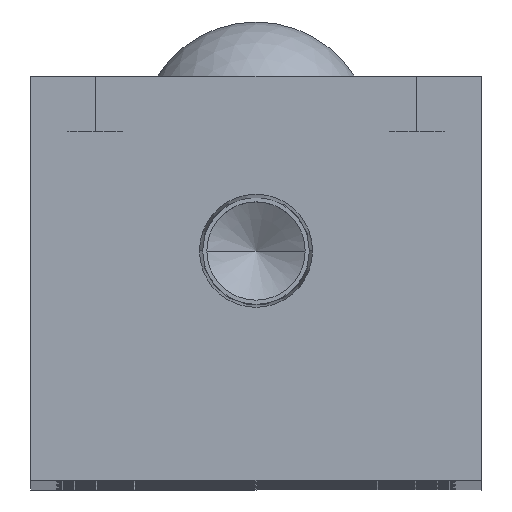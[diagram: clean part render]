
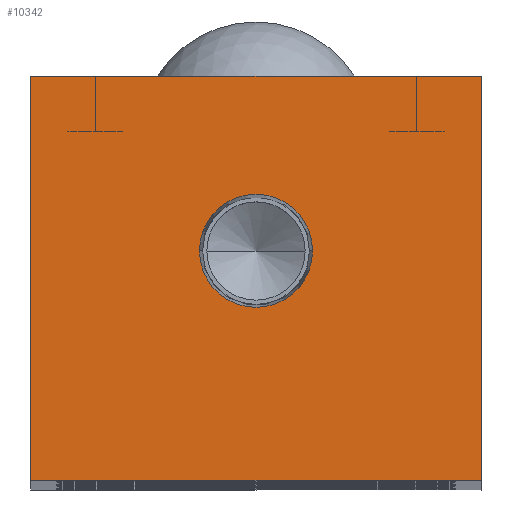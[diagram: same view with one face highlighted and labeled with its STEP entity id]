
A CAD part, top view. The second image highlights one B-rep face of the part: STEP entity #10342.
In plain terms, the highlighted planar face has unit normal (0, 0, 1).
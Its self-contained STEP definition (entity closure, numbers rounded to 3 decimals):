
#293 = DIRECTION ( 'NONE',  ( 1., 0., 0. ) ) ;
#368 = CARTESIAN_POINT ( 'NONE',  ( 24.5, 0., 0. ) ) ;
#609 = DIRECTION ( 'NONE',  ( -1., 0., 0. ) ) ;
#685 = ORIENTED_EDGE ( 'NONE', *, *, #13887, .F. ) ;
#822 = CIRCLE ( 'NONE', #7862, 6.154 ) ;
#835 = EDGE_CURVE ( 'NONE', #13288, #1421, #7518, .T. ) ;
#929 = CARTESIAN_POINT ( 'NONE',  ( 24.5, 0., 0. ) ) ;
#1297 = ORIENTED_EDGE ( 'NONE', *, *, #2838, .T. ) ;
#1421 = VERTEX_POINT ( 'NONE', #6591 ) ;
#1744 = ORIENTED_EDGE ( 'NONE', *, *, #14987, .T. ) ;
#2093 = VECTOR ( 'NONE', #9946, 1000. ) ;
#2445 = FACE_BOUND ( 'NONE', #14408, .T. ) ;
#2823 = EDGE_CURVE ( 'NONE', #5612, #13288, #13438, .T. ) ;
#2838 = EDGE_CURVE ( 'NONE', #1421, #11591, #6734, .T. ) ;
#3529 = VECTOR ( 'NONE', #9387, 1000. ) ;
#3814 = CARTESIAN_POINT ( 'NONE',  ( -6.154, 25., 0. ) ) ;
#3977 = CARTESIAN_POINT ( 'NONE',  ( -24.5, 0., 0. ) ) ;
#4251 = CARTESIAN_POINT ( 'NONE',  ( 0., 25., 0. ) ) ;
#4317 = VECTOR ( 'NONE', #9297, 1000. ) ;
#5401 = CARTESIAN_POINT ( 'NONE',  ( 0., 0., 0. ) ) ;
#5464 = DIRECTION ( 'NONE',  ( 1., 0., 0. ) ) ;
#5612 = VERTEX_POINT ( 'NONE', #14167 ) ;
#5672 = CARTESIAN_POINT ( 'NONE',  ( 24.5, 44., 0. ) ) ;
#6398 = FACE_OUTER_BOUND ( 'NONE', #9476, .T. ) ;
#6591 = CARTESIAN_POINT ( 'NONE',  ( 24.5, 44., 0. ) ) ;
#6610 = PLANE ( 'NONE',  #7303 ) ;
#6734 = LINE ( 'NONE', #6987, #3529 ) ;
#6987 = CARTESIAN_POINT ( 'NONE',  ( -24.5, 44., 0. ) ) ;
#7303 = AXIS2_PLACEMENT_3D ( 'NONE', #5401, #7832, #609 ) ;
#7513 = DIRECTION ( 'NONE',  ( 0., 0., 1. ) ) ;
#7518 = LINE ( 'NONE', #5672, #4317 ) ;
#7832 = DIRECTION ( 'NONE',  ( 0., 0., -1. ) ) ;
#7862 = AXIS2_PLACEMENT_3D ( 'NONE', #4251, #12626, #5464 ) ;
#8475 = AXIS2_PLACEMENT_3D ( 'NONE', #14646, #7513, #293 ) ;
#9265 = ORIENTED_EDGE ( 'NONE', *, *, #835, .T. ) ;
#9297 = DIRECTION ( 'NONE',  ( 0., 1., 0. ) ) ;
#9387 = DIRECTION ( 'NONE',  ( -1., 0., 0. ) ) ;
#9476 = EDGE_LOOP ( 'NONE', ( #1744, #15005, #9265, #1297 ) ) ;
#9946 = DIRECTION ( 'NONE',  ( 0., -1., 0. ) ) ;
#10185 = VERTEX_POINT ( 'NONE', #14716 ) ;
#10342 = ADVANCED_FACE ( 'NONE', ( #2445, #6398 ), #6610, .F. ) ;
#11563 = ORIENTED_EDGE ( 'NONE', *, *, #14913, .F. ) ;
#11591 = VERTEX_POINT ( 'NONE', #11906 ) ;
#11657 = LINE ( 'NONE', #3977, #2093 ) ;
#11906 = CARTESIAN_POINT ( 'NONE',  ( -24.5, 44., 0. ) ) ;
#12626 = DIRECTION ( 'NONE',  ( 0., 0., 1. ) ) ;
#13075 = VECTOR ( 'NONE', #15296, 1000. ) ;
#13288 = VERTEX_POINT ( 'NONE', #368 ) ;
#13438 = LINE ( 'NONE', #929, #13075 ) ;
#13887 = EDGE_CURVE ( 'NONE', #10185, #14296, #822, .T. ) ;
#14167 = CARTESIAN_POINT ( 'NONE',  ( -24.5, 0., 0. ) ) ;
#14296 = VERTEX_POINT ( 'NONE', #3814 ) ;
#14408 = EDGE_LOOP ( 'NONE', ( #685, #11563 ) ) ;
#14646 = CARTESIAN_POINT ( 'NONE',  ( 0., 25., 0. ) ) ;
#14716 = CARTESIAN_POINT ( 'NONE',  ( 6.154, 25., 0. ) ) ;
#14913 = EDGE_CURVE ( 'NONE', #14296, #10185, #15239, .T. ) ;
#14987 = EDGE_CURVE ( 'NONE', #11591, #5612, #11657, .T. ) ;
#15005 = ORIENTED_EDGE ( 'NONE', *, *, #2823, .T. ) ;
#15239 = CIRCLE ( 'NONE', #8475, 6.154 ) ;
#15296 = DIRECTION ( 'NONE',  ( 1., 0., 0. ) ) ;
